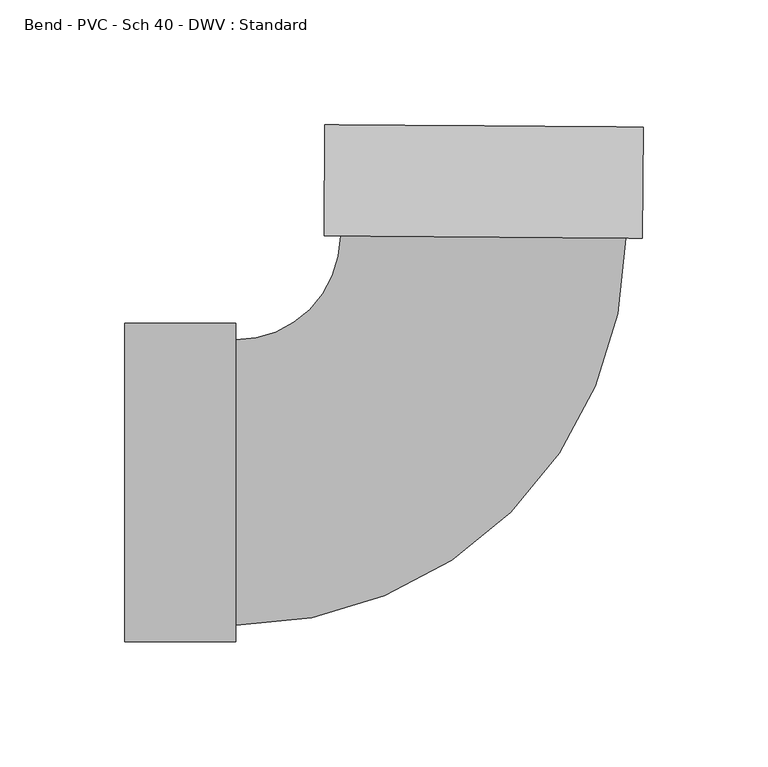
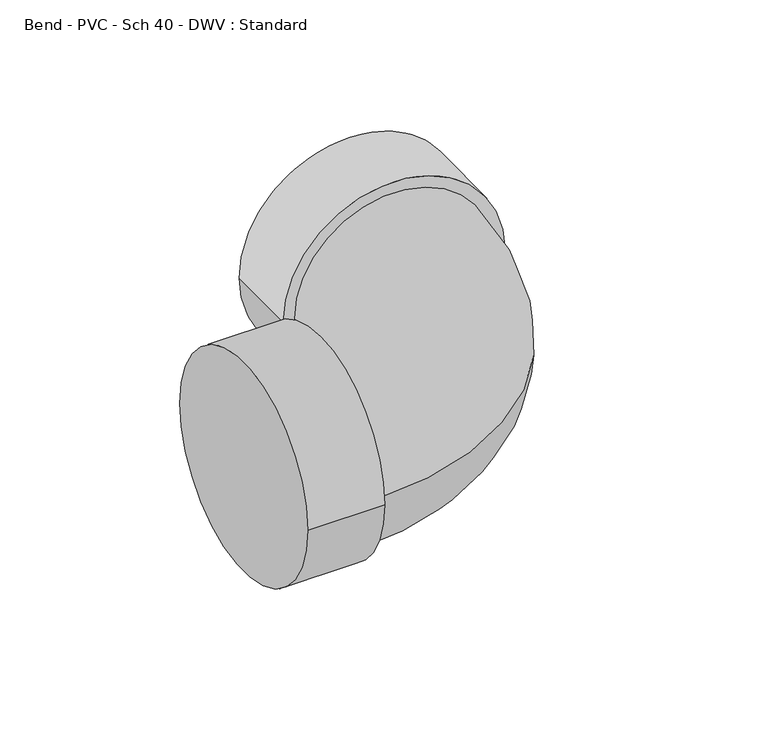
"""IFC4 building model written with IfcOpenShell, lengths in millimetres: pipe fitting geometry, Bend - PVC - Sch 40 - DWV : Standard."""

import ifcopenshell
import ifcopenshell.guid

model = None  # the IFC model being written
_history = None  # IfcOwnerHistory: only IFC2X3 demands one
_inside = {}  # id of a spatial element -> (the spatial element, [elements in it])
_under = {}  # id of a project, library or spatial element -> (it, [spatial elements below it])
_declared = {}  # id of a project -> (the project, [libraries it declares])
_typed = {}  # id of a type object -> (the type object, [elements of that type])
_made_of = {}  # id of a material, layer set ... -> (it, [elements and type objects made of it])


def new_model(schema):
    """Start an empty IFC model of exactly this schema.

    Asked for "IFC4X3", IfcOpenShell would pick the latest addendum, in which some entities
    have other attributes; the version numbers below select the first issue.
    IFC2X3 requires an IfcOwnerHistory on every rooted entity: one is made here for all.
    """
    global model, _history
    if schema == "IFC4X3":
        model = ifcopenshell.file(schema_version=(4, 3, 0, 0))
    else:
        model = ifcopenshell.file(schema=schema)
    _inside.clear()
    _under.clear()
    _declared.clear()
    _typed.clear()
    _made_of.clear()
    _history = None
    if model.schema == "IFC2X3":
        org = make("IfcOrganization", Name="unknown")
        user = make(
            "IfcPersonAndOrganization",
            ThePerson=make("IfcPerson", FamilyName="unknown"),
            TheOrganization=org,
        )
        app = make(
            "IfcApplication",
            ApplicationDeveloper=org,
            Version="unknown",
            ApplicationFullName="unknown",
            ApplicationIdentifier="unknown",
        )
        _history = make(
            "IfcOwnerHistory",
            OwningUser=user,
            OwningApplication=app,
            ChangeAction="ADDED",
            CreationDate=0,
        )
    return model


def make(cls, **values):
    """One entity of the class cls with the attributes given. An attribute that is None is left unset."""
    return model.create_entity(
        cls, **{name: value for name, value in values.items() if value is not None}
    )


def rooted(cls, **values):
    """An entity with a GlobalId (a new one), such as an element, a storey or a relation."""
    return make(cls, GlobalId=ifcopenshell.guid.new(), OwnerHistory=_history, **values)


def si_unit(unit_type, name, prefix=None):
    """IfcSIUnit, for example si_unit("LENGTHUNIT", "METRE", prefix="MILLI")."""
    return make("IfcSIUnit", UnitType=unit_type, Prefix=prefix, Name=name)


def assignment(units):
    """IfcUnitAssignment: the units of a project."""
    return None if units is None else make("IfcUnitAssignment", Units=units)


def point(xyz):
    """IfcCartesianPoint."""
    return None if xyz is None else make("IfcCartesianPoint", Coordinates=xyz)


def direction(xyz):
    """IfcDirection."""
    return None if xyz is None else make("IfcDirection", DirectionRatios=xyz)


def frame(location, z_axis=None, x_axis=None):
    """IfcAxis2Placement3D, a coordinate frame: its origin and axes. An axis left out is left unset."""
    return make(
        "IfcAxis2Placement3D",
        Location=point(location),
        Axis=direction(z_axis),
        RefDirection=direction(x_axis),
    )


def origin():
    """The frame at (0, 0, 0) with its axes left unset."""
    return frame((0.0, 0.0, 0.0))


def place(relative_to, where):
    """IfcLocalPlacement: puts the frame where relative to a parent placement (None: the world)."""
    return make(
        "IfcLocalPlacement", PlacementRelTo=relative_to, RelativePlacement=where
    )


def context(
    kind, dimensions, precision=None, world=None, true_north=None, identifier=None
):
    """IfcGeometricRepresentationContext, for example the 3D "Model" context."""
    return make(
        "IfcGeometricRepresentationContext",
        ContextIdentifier=identifier,
        ContextType=kind,
        CoordinateSpaceDimension=dimensions,
        Precision=precision,
        WorldCoordinateSystem=world,
        TrueNorth=true_north,
    )


def project(units=None, contexts=None):
    """IfcProject with its units and contexts."""
    return rooted(
        "IfcProject",
        Name="project",
        RepresentationContexts=contexts,
        UnitsInContext=assignment(units),
    )


def spatial(cls, under=None, at=None, **own):
    """A site, building, storey or space (cls), placed at a placement, below another one or the project."""
    s = rooted(cls, ObjectPlacement=at, **own)
    if under is not None:
        _under.setdefault(under.id(), (under, []))[1].append(s)
    return s


def circle_curve(where, radius):
    """IfcCircle in the frame where."""
    return make("IfcCircle", Position=where, Radius=radius)


def ellipse_curve(where, semi_axis1, semi_axis2):
    """IfcEllipse in the frame where."""
    return make(
        "IfcEllipse", Position=where, SemiAxis1=semi_axis1, SemiAxis2=semi_axis2
    )


def trimmed(basis, trim1, trim2, sense, master):
    """IfcTrimmedCurve: the piece of a basis curve between two trims."""
    return make(
        "IfcTrimmedCurve",
        BasisCurve=basis,
        Trim1=trim1,
        Trim2=trim2,
        SenseAgreement=sense,
        MasterRepresentation=master,
    )


def shape(context_of_items, identifier, shape_type, items):
    """IfcShapeRepresentation: the items that make up one representation, for example the "Body"."""
    return make(
        "IfcShapeRepresentation",
        ContextOfItems=context_of_items,
        RepresentationIdentifier=identifier,
        RepresentationType=shape_type,
        Items=items,
    )


def source(mapping_origin, context_of_items, identifier, shape_type, items):
    """IfcRepresentationMap: a shape defined once, which mapped items show again and again."""
    return make(
        "IfcRepresentationMap",
        MappingOrigin=mapping_origin,
        MappedRepresentation=shape(context_of_items, identifier, shape_type, items),
    )


def transform(
    local_origin,
    x_axis=None,
    y_axis=None,
    z_axis=None,
    scale=None,
    scale2=None,
    scale3=None,
    uniform=True,
):
    """IfcCartesianTransformationOperator3D, or its non-uniform kind. x_axis, y_axis, z_axis: its Axis1, 2, 3."""
    if uniform:
        return make(
            "IfcCartesianTransformationOperator3D",
            Axis1=direction(x_axis),
            Axis2=direction(y_axis),
            LocalOrigin=point(local_origin),
            Scale=scale,
            Axis3=direction(z_axis),
        )
    return make(
        "IfcCartesianTransformationOperator3DnonUniform",
        Axis1=direction(x_axis),
        Axis2=direction(y_axis),
        LocalOrigin=point(local_origin),
        Scale=scale,
        Axis3=direction(z_axis),
        Scale2=scale2,
        Scale3=scale3,
    )


def mapped(mapping_source, mapping_target):
    """IfcMappedItem: shows the shape of a source again, moved by a transform."""
    return make(
        "IfcMappedItem", MappingSource=mapping_source, MappingTarget=mapping_target
    )


def made_of(thing, what):
    """Note that an element or type object is made of a material, layer set ...; save() writes the relation."""
    if what is not None:
        _made_of.setdefault(what.id(), (what, []))[1].append(thing)
    return thing


def element(
    cls,
    number,
    at=None,
    inside=None,
    cuts=None,
    type_object=None,
    material=None,
    context=None,
    identifier="Body",
    shape_type=None,
    held_by="IfcProductDefinitionShape",
    body=None,
    shapes=None,
    **own,
):
    """One element of the class cls, such as IfcWall. Its Tag is "e" and its number.

    at: its placement. inside: the storey or other place that contains it. cuts: it is an
    opening in that element (IfcRelVoidsElement). A single representation is given by context,
    identifier, shape_type and body (its items); several are given by shapes. held_by: the class
    of the entity that holds the representations. save() writes the other relations.
    """
    e = rooted(cls, Tag="e%d" % number, ObjectPlacement=at, **own)
    if body is not None:
        shapes = [shape(context, identifier, shape_type, body)]
    if shapes is not None:
        e.Representation = make(held_by, Representations=shapes)
    if inside is not None:
        _inside.setdefault(inside.id(), (inside, []))[1].append(e)
    if cuts is not None:
        rooted(
            "IfcRelVoidsElement", RelatingBuildingElement=cuts, RelatedOpeningElement=e
        )
    if type_object is not None:
        _typed.setdefault(type_object.id(), (type_object, []))[1].append(e)
    return made_of(e, material)


def aggregate(whole, parts):
    """IfcRelAggregates: a whole, such as a stair, and the parts it consists of."""
    return rooted("IfcRelAggregates", RelatingObject=whole, RelatedObjects=parts)


def save(model, path):
    """Write the relations noted so far, then the file.

    IfcRelAggregates (storeys below a building ...), IfcRelContainedInSpatialStructure (elements
    in a storey), IfcRelDefinesByType, IfcRelAssociatesMaterial and IfcRelDeclares: one each for
    every whole, place, type object, material and project.
    """
    for whole, parts in _under.values():
        aggregate(whole, parts)
    for where, things in _inside.values():
        rooted(
            "IfcRelContainedInSpatialStructure",
            RelatedElements=things,
            RelatingStructure=where,
        )
    for kind, things in _typed.values():
        rooted("IfcRelDefinesByType", RelatedObjects=things, RelatingType=kind)
    for what, things in _made_of.values():
        rooted("IfcRelAssociatesMaterial", RelatedObjects=things, RelatingMaterial=what)
    for by, libraries in _declared.values():
        rooted("IfcRelDeclares", RelatingContext=by, RelatedDefinitions=libraries)
    model.write(path)


def plane_surface(at):
    """IfcPlane: the flat surface through the origin of the frame at, square to its z axis."""
    return make("IfcPlane", Position=at)


def cylinder_surface(at, radius):
    """IfcCylindricalSurface: all points at the distance radius from the z axis of the frame at."""
    return make("IfcCylindricalSurface", Position=at, Radius=radius)


def revolved_surface(curve, axis_point, axis_direction):
    """IfcSurfaceOfRevolution: the curve turned about the line through axis_point along axis_direction."""
    return make(
        "IfcSurfaceOfRevolution",
        SweptCurve=make("IfcArbitraryOpenProfileDef", ProfileType="CURVE", Curve=curve),
        AxisPosition=make("IfcAxis1Placement", Location=point(axis_point), Axis=direction(axis_direction)),
    )


def advanced_brep(points, edges, surfaces, faces):
    """IfcAdvancedBrep: a solid bounded by faces that lie on surfaces and meet in shared edges.

    An edge is (start, end): straight between two places in points (the first is 0);
    or (start, end, curve); or (start, end, curve, False) where it runs against its curve.
    A face is (place in surfaces, loops), or (place, loops, False) where it looks against
    its surface's normal. A loop lists edges by number (the first is 1), with a minus sign
    where the edge is run from its end to its start. The first loop is the outer one.
    """
    corners = [point(p) for p in points]
    vertices = [make("IfcVertexPoint", VertexGeometry=c) for c in corners]
    made = []
    for start, end, *more in edges:
        made.append(
            make(
                "IfcEdgeCurve",
                EdgeStart=vertices[start],
                EdgeEnd=vertices[end],
                EdgeGeometry=more[0] if more else make("IfcPolyline", Points=[corners[start], corners[end]]),
                SameSense=more[1] if len(more) > 1 else True,
            )
        )
    hull = []
    for where, loops, *sense in faces:
        bounds = []
        for j, loop in enumerate(loops):
            ring = [make("IfcOrientedEdge", EdgeElement=made[abs(k) - 1], Orientation=k > 0) for k in loop]
            bounds.append(
                make(
                    "IfcFaceOuterBound" if j == 0 else "IfcFaceBound",
                    Bound=make("IfcEdgeLoop", EdgeList=ring),
                    Orientation=True,
                )
            )
        hull.append(make("IfcAdvancedFace", Bounds=bounds, FaceSurface=surfaces[where], SameSense=sense[0] if sense else True))
    return make("IfcAdvancedBrep", Outer=make("IfcClosedShell", CfsFaces=hull))


def bend_pvc_sch_40_dwv_standard_6b8d37c2(model_context):
    return source(origin(), model_context, "Body", "AdvancedBrep", [
        advanced_brep(
        [(-142.875, -63.754, 0.0), (-142.875, 63.754, 0.0), (-98.425, -63.754, 0.0), (-98.425, 63.754, 0.0), (-98.425, -57.15, 0.0), (-98.425, 57.15, 0.0), (-56.421321, 98.8445125, 0.0), (57.8755599, 98.0001158, 0.0), (64.4793797, 97.9513284, 0.0), (-63.0251408, 98.8932999, 0.0), (64.8077562, 142.4001154, 0.0), (-62.6967643, 143.3420869, 0.0)],
        [
            (0, 1, circle_curve(frame((-142.875, 0.0, 0.0), z_axis=(-1.0, 0.0, 0.0), x_axis=(0.0, 1.0, 0.0)), 63.754)),
            (1, 0, circle_curve(frame((-142.875, 0.0, 0.0), z_axis=(-1.0, 0.0, 0.0), x_axis=(0.0, 1.0, 0.0)), 63.754)),
            (2, 3, circle_curve(frame((-98.425, 0.0, 0.0), z_axis=(1.0, 0.0, 0.0), x_axis=(0.0, 1.0, 0.0)), 63.754)),
            (3, 2, circle_curve(frame((-98.425, 0.0, 0.0), z_axis=(1.0, 0.0, 0.0), x_axis=(0.0, 1.0, 0.0)), 63.754)),
            (4, 5, circle_curve(frame((-98.425, 0.0, 0.0), z_axis=(-1.0, 0.0, 0.0), x_axis=(0.0, 1.0, 0.0)), 57.15)),
            (5, 4, circle_curve(frame((-98.425, 0.0, 0.0), z_axis=(-1.0, 0.0, 0.0), x_axis=(0.0, 1.0, 0.0)), 57.15)),
            (0, 2),
            (3, 1),
            (6, 5, circle_curve(frame((-98.425, 99.1548252, 0.0), z_axis=(0.0, 0.0, -1.0), x_axis=(0.0, -1.0, 0.0)), 42.0048252)),
            (4, 7, circle_curve(frame((-98.425, 99.1548252, 0.0), z_axis=(0.0, 0.0, 1.0), x_axis=(0.0, -1.0, 0.0)), 156.3048252)),
            (7, 6, circle_curve(frame((0.7271194, 98.4223141, 0.0), z_axis=(-0.007387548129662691, -0.9999727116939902, 0.0), x_axis=(-0.9999727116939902, 0.007387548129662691, 0.0)), 57.15)),
            (6, 7, circle_curve(frame((0.7271194, 98.4223141, 0.0), z_axis=(-0.007387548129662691, -0.9999727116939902, 0.0), x_axis=(-0.9999727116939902, 0.007387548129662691, 0.0)), 57.15)),
            (8, 9, circle_curve(frame((0.7271194, 98.4223141, 0.0), z_axis=(-0.007387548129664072, -0.9999727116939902, 0.0), x_axis=(-0.9999727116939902, 0.007387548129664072, 0.0)), 63.754)),
            (9, 8, circle_curve(frame((0.7271194, 98.4223141, 0.0), z_axis=(-0.007387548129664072, -0.9999727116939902, 0.0), x_axis=(-0.9999727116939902, 0.007387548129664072, 0.0)), 63.754)),
            (10, 11, circle_curve(frame((1.0554959, 142.8711012, 0.0), z_axis=(0.007387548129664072, 0.9999727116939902, 0.0), x_axis=(-0.9999727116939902, 0.007387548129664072, 0.0)), 63.754)),
            (11, 10, circle_curve(frame((1.0554959, 142.8711012, 0.0), z_axis=(0.007387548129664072, 0.9999727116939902, 0.0), x_axis=(-0.9999727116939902, 0.007387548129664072, 0.0)), 63.754)),
            (8, 10),
            (11, 9),
        ],
        [
            plane_surface(frame((-142.875, 0.0, 0.0), z_axis=(-1.0, 0.0, 0.0), x_axis=(0.0, 0.0, 1.0))),
            plane_surface(frame((-98.425, 0.0, 0.0), z_axis=(1.0, 0.0, 0.0), x_axis=(0.0, 0.0, 1.0))),
            cylinder_surface(frame((-142.875, 0.0, 0.0), z_axis=(-1.0, 0.0, 0.0), x_axis=(0.0, 1.0, 0.0)), 63.754),
            revolved_surface(trimmed(ellipse_curve(frame((-98.425, 0.0, 0.0), z_axis=(-1.0, 0.0, 0.0), x_axis=(0.0, 1.0, 0.0)), 57.15, 57.15), [point((-98.425, -57.15, 0.0))], [point((-98.425, 57.15, 0.0))], True, "CARTESIAN"), (-98.425, 99.1548252, 0.0), (0.0, 0.0, 1.0)),
            revolved_surface(trimmed(ellipse_curve(frame((-98.425, 0.0, 0.0), z_axis=(-1.0, 0.0, 0.0), x_axis=(0.0, 1.0, 0.0)), 57.15, 57.15), [point((-98.425, 57.15, 0.0))], [point((-98.425, -57.15, 0.0))], True, "CARTESIAN"), (-98.425, 99.1548252, 0.0), (0.0, 0.0, 1.0)),
            plane_surface(frame((0.7271194, 98.4223141, 0.0), z_axis=(-0.007387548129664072, -0.9999727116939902, 0.0), x_axis=(0.0, 0.0, 1.0))),
            plane_surface(frame((1.0554959, 142.8711012, 0.0), z_axis=(0.007387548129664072, 0.9999727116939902, 0.0), x_axis=(0.0, 0.0, 1.0))),
            cylinder_surface(frame((0.7271194, 98.4223141, 0.0), z_axis=(-0.007387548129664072, -0.9999727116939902, 0.0), x_axis=(-0.9999727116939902, 0.007387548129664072, 0.0)), 63.754),
        ],
        [
            (0, [[1, 2]]),
            (1, [[3, 4], [5, 6]]),
            (2, [[-1, 7, -4, 8]]),
            (2, [[-2, -8, -3, -7]]),
            (3, [[9, -5, 10, 11]]),
            (4, [[-9, 12, -10, -6]]),
            (5, [[13, 14], [-11, -12]]),
            (6, [[15, 16]]),
            (7, [[-13, 17, -16, 18]]),
            (7, [[-14, -18, -15, -17]]),
        ],
    ),
    ])


if __name__ == "__main__":
    model = new_model("IFC4")
    model_context = context("Model", 3, world=origin())
    ifc_project = project(units=[si_unit("LENGTHUNIT", "METRE", prefix="MILLI")], contexts=[model_context])
    site = spatial("IfcSite", under=ifc_project)
    building = spatial("IfcBuilding", under=site)
    placement = place(None, origin())
    bend_pvc_sch_40_dwv_standard_shape = bend_pvc_sch_40_dwv_standard_6b8d37c2(model_context)
    element("IfcPipeFitting", 1, ObjectType="Bend - PVC - Sch 40 - DWV : Standard", at=placement, inside=building, context=model_context, shape_type="MappedRepresentation", body=[
        mapped(bend_pvc_sch_40_dwv_standard_shape, transform((0.0, 0.0, 0.0), x_axis=(1.0, 0.0, 0.0), y_axis=(0.0, 1.0, 0.0), z_axis=(0.0, 0.0, 1.0))),
    ])
    save(model, "model.ifc")
